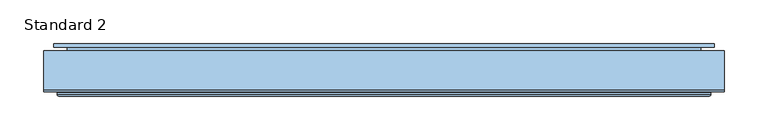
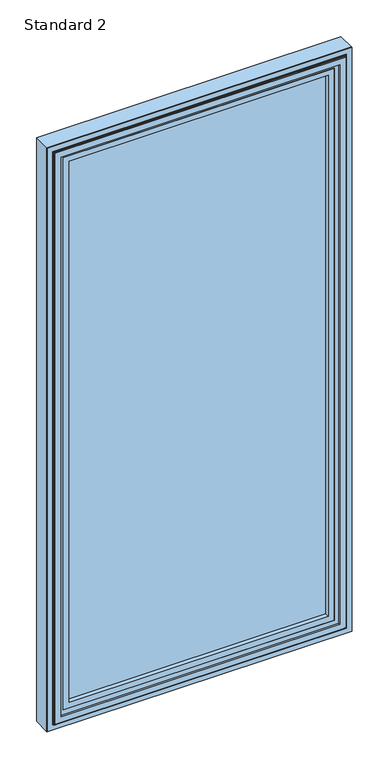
"""IFC4 building model written with IfcOpenShell, lengths in millimetres: window geometry, SMARTS_AlithermHeritage : Standard 2."""

from ifc_helpers import new_model, si_unit, frame, origin, place, context, project, spatial, polyline, ellipse_curve, outline, extrude, source, transform, mapped, element, save
from ifc_brep_helpers import plane_surface, cylinder_surface, revolved_surface, advanced_brep


def standard_2_b6ffea32(model_context):
    return source(origin(), model_context, "Body", "SolidModel", [
        extrude(outline(polyline([(2190.0, 390.0), (2190.0, -390.0), (610.0, -390.0), (610.0, 390.0), (2190.0, 390.0)]), holes=[polyline([(627.7000182, 372.2999818), (627.7000182, -372.2999818), (2172.2999818, -372.2999818), (2172.2999818, 372.2999818), (627.7000182, 372.2999818)])]), frame((0.0, 50.279857, 0.0), z_axis=(0.0, 1.0, 0.0), x_axis=(0.0, 0.0, 1.0)), (0.0, 0.0, 1.0), 44.9999962),
        advanced_brep(
        [(357.0, 43.2798432, 2157.0), (357.0, 47.2798432, 2157.0), (357.0, 47.2798432, 643.0), (357.0, 43.2798432, 643.0), (390.0, 50.279857, 2190.0), (390.0, 48.279857, 2190.0), (390.0, 48.279857, 610.0), (390.0, 50.279857, 610.0), (372.4999818, 43.2798432, 2172.4999818), (-372.4999818, 43.2798432, 2172.4999818), (-372.4999818, 43.2798432, 627.5000182), (372.4999818, 43.2798432, 627.5000182), (-357.0, 43.2798432, 643.0), (-357.0, 43.2798432, 2157.0), (-390.0, 50.279857, 2190.0), (-390.0, 48.279857, 2190.0), (-390.0, 50.279857, 610.0), (372.2999818, 50.279857, 2172.2999818), (-372.2999818, 50.279857, 2172.2999818), (-372.2999818, 50.279857, 627.7000182), (372.2999818, 50.279857, 627.7000182), (-357.0, 47.2798432, 2157.0), (-357.0, 47.2798432, 643.0), (-390.0, 48.279857, 610.0), (-372.2999818, 47.2798432, 2172.2999818), (372.2999818, 47.2798432, 2172.2999818), (372.2999818, 47.2798432, 627.7000182), (374.4999818, 46.779857, 625.5000182), (374.4999818, 45.2798432, 625.5000182), (-374.4999818, 45.2798432, 625.5000182), (-374.4999818, 46.779857, 625.5000182), (374.4999818, 46.779857, 2174.4999818), (374.4999818, 45.2798432, 2174.4999818), (-372.2999818, 47.2798432, 627.7000182), (-374.4999818, 45.2798432, 2174.4999818), (-374.4999818, 46.779857, 2174.4999818), (375.9999818, 48.279857, 2175.9999818), (375.9999818, 48.279857, 624.0000182), (-375.9999818, 48.279857, 624.0000182), (-375.9999818, 48.279857, 2175.9999818)],
        [
            (0, 1),
            (1, 2),
            (2, 3),
            (3, 0),
            (4, 5),
            (5, 6),
            (6, 7),
            (7, 4),
            (8, 9),
            (9, 10),
            (10, 11),
            (11, 8),
            (3, 12),
            (12, 13),
            (13, 0),
            (14, 15),
            (15, 5),
            (4, 14),
            (7, 16),
            (16, 14),
            (17, 18),
            (18, 19),
            (19, 20),
            (20, 17),
            (13, 21),
            (21, 1),
            (2, 22),
            (22, 12),
            (22, 21),
            (6, 23),
            (23, 16),
            (23, 15),
            (24, 18),
            (17, 25),
            (25, 24),
            (20, 26),
            (26, 25),
            (27, 28),
            (28, 29),
            (29, 30),
            (30, 27),
            (31, 32),
            (32, 28),
            (27, 31),
            (19, 33),
            (33, 26),
            (24, 33),
            (29, 34),
            (34, 35),
            (35, 30),
            (34, 32),
            (31, 35),
            (36, 31, ellipse_curve(frame((375.9999818, 46.779857, 2175.9999818), z_axis=(-0.7071067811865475, 0.0, 0.7071067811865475), x_axis=(-0.7071067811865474, 0.0, -0.7071067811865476)), 2.1213203, 1.5)),
            (27, 37, ellipse_curve(frame((375.9999818, 46.779857, 624.0000182), z_axis=(-0.7071067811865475, 0.0, -0.7071067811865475), x_axis=(0.7071067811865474, 0.0, -0.7071067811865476)), 2.1213203, 1.5)),
            (37, 36),
            (30, 38, ellipse_curve(frame((-375.9999818, 46.779857, 624.0000182), z_axis=(-0.7071067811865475, 0.0, 0.7071067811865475), x_axis=(-0.7071067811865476, 0.0, -0.7071067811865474)), 2.1213203, 1.5)),
            (38, 37),
            (35, 39, ellipse_curve(frame((-375.9999818, 46.779857, 2175.9999818), z_axis=(0.7071067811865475, 0.0, 0.7071067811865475), x_axis=(-0.7071067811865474, 0.0, 0.7071067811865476)), 2.1213203, 1.5)),
            (39, 38),
            (36, 39),
            (32, 8, ellipse_curve(frame((372.4999818, 45.2798432, 2172.4999818), z_axis=(0.7071067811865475, 0.0, -0.7071067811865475), x_axis=(0.7071067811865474, 0.0, 0.7071067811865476)), 2.8284271, 2.0)),
            (11, 28, ellipse_curve(frame((372.4999818, 45.2798432, 627.5000182), z_axis=(0.7071067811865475, 0.0, 0.7071067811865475), x_axis=(-0.7071067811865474, 0.0, 0.7071067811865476)), 2.8284271, 2.0)),
            (10, 29, ellipse_curve(frame((-372.4999818, 45.2798432, 627.5000182), z_axis=(0.7071067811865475, 0.0, -0.7071067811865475), x_axis=(0.7071067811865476, 0.0, 0.7071067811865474)), 2.8284271, 2.0)),
            (9, 34, ellipse_curve(frame((-372.4999818, 45.2798432, 2172.4999818), z_axis=(-0.7071067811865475, 0.0, -0.7071067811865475), x_axis=(0.7071067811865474, 0.0, -0.7071067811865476)), 2.8284271, 2.0)),
        ],
        [
            plane_surface(frame((357.0, 47.2798432, 2157.0), z_axis=(-1.0, 0.0, 0.0), x_axis=(0.0, 0.0, -1.0))),
            plane_surface(frame((390.0, 48.279857, 2190.0), z_axis=(1.0, 0.0, 0.0), x_axis=(0.0, 0.0, -1.0))),
            plane_surface(frame((-357.0, 43.2798432, 2157.0), z_axis=(0.0, -1.0, 0.0), x_axis=(1.0, 0.0, 0.0))),
            plane_surface(frame((-390.0, 48.279857, 2190.0), z_axis=(0.0, 0.0, 1.0), x_axis=(1.0, 0.0, 0.0))),
            plane_surface(frame((-390.0, 50.279857, 2190.0), z_axis=(0.0, 1.0, 0.0), x_axis=(1.0, 0.0, 0.0))),
            plane_surface(frame((-357.0, 47.2798432, 2157.0), z_axis=(0.0, 0.0, -1.0), x_axis=(1.0, 0.0, 0.0))),
            plane_surface(frame((357.0, 47.2798432, 643.0), z_axis=(0.0, 0.0, 1.0), x_axis=(-1.0, 0.0, 0.0))),
            plane_surface(frame((-357.0, 47.2798432, 643.0), z_axis=(1.0, 0.0, 0.0), x_axis=(0.0, 0.0, 1.0))),
            plane_surface(frame((390.0, 48.279857, 610.0), z_axis=(0.0, 0.0, -1.0), x_axis=(-1.0, 0.0, 0.0))),
            plane_surface(frame((-390.0, 48.279857, 610.0), z_axis=(-1.0, 0.0, 0.0), x_axis=(0.0, 0.0, 1.0))),
            plane_surface(frame((-372.2999818, 50.279857, 2172.2999818), z_axis=(0.0, 0.0, -1.0), x_axis=(1.0, 0.0, 0.0))),
            plane_surface(frame((372.2999818, 50.279857, 2172.2999818), z_axis=(-1.0, 0.0, 0.0), x_axis=(0.0, 0.0, -1.0))),
            plane_surface(frame((374.4999818, 45.2798432, 625.5000182), z_axis=(0.0, 0.0, -1.0), x_axis=(-1.0, 0.0, 0.0))),
            plane_surface(frame((374.4999818, 45.2798432, 2174.4999818), z_axis=(1.0, 0.0, 0.0), x_axis=(0.0, 0.0, -1.0))),
            plane_surface(frame((372.2999818, 50.279857, 627.7000182), z_axis=(0.0, 0.0, 1.0), x_axis=(-1.0, 0.0, 0.0))),
            plane_surface(frame((-372.2999818, 50.279857, 627.7000182), z_axis=(1.0, 0.0, 0.0), x_axis=(0.0, 0.0, 1.0))),
            plane_surface(frame((-374.4999818, 45.2798432, 625.5000182), z_axis=(-1.0, 0.0, 0.0), x_axis=(0.0, 0.0, 1.0))),
            plane_surface(frame((-372.2999818, 47.2798432, 2172.2999818), z_axis=(0.0, 1.0, 0.0), x_axis=(1.0, 0.0, 0.0))),
            plane_surface(frame((-374.4999818, 45.2798432, 2174.4999818), z_axis=(0.0, 0.0, 1.0), x_axis=(1.0, 0.0, 0.0))),
            revolved_surface(polyline([(374.4999818, 46.779857, 622.5000182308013), (374.4999818, 46.779857, 2177.4999817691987)]), (375.9999818, 46.779857, 2190.0), (0.0, 0.0, -1.0)),
            revolved_surface(polyline([(-377.4999817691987, 46.779857, 625.5000182), (377.49998176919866, 46.779857, 625.5000182)]), (390.0, 46.779857, 624.0000182), (-1.0, 0.0, 0.0)),
            revolved_surface(polyline([(-374.4999818, 46.779857, 2177.4999817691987), (-374.4999818, 46.779857, 622.5000182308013)]), (-375.9999818, 46.779857, 610.0), (0.0, 0.0, 1.0)),
            revolved_surface(polyline([(377.4999817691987, 46.779857, 2174.4999818), (-377.49998176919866, 46.779857, 2174.4999818)]), (-390.0, 46.779857, 2175.9999818), (1.0, 0.0, 0.0)),
            plane_surface(frame((-375.9999818, 48.279857, 2175.9999818), z_axis=(0.0, -1.0, 0.0), x_axis=(1.0, 0.0, 0.0))),
            cylinder_surface(frame((372.4999818, 45.2798432, 2190.0), z_axis=(0.0, 0.0, 1.0), x_axis=(-1.0, 0.0, 0.0)), 2.0),
            cylinder_surface(frame((390.0, 45.2798432, 627.5000182), z_axis=(1.0, 0.0, 0.0), x_axis=(0.0, 0.0, 1.0)), 2.0),
            cylinder_surface(frame((-372.4999818, 45.2798432, 610.0), z_axis=(0.0, 0.0, -1.0), x_axis=(1.0, 0.0, 0.0)), 2.0),
            cylinder_surface(frame((-390.0, 45.2798432, 2172.4999818), z_axis=(-1.0, 0.0, 0.0), x_axis=(0.0, 0.0, -1.0)), 2.0),
        ],
        [
            (0, [[1, 2, 3, 4]]),
            (1, [[5, 6, 7, 8]]),
            (2, [[9, 10, 11, 12], [13, 14, 15, -4]]),
            (3, [[16, 17, -5, 18]]),
            (4, [[19, 20, -18, -8], [21, 22, 23, 24]]),
            (5, [[25, 26, -1, -15]]),
            (6, [[-3, 27, 28, -13]]),
            (7, [[-28, 29, -25, -14]]),
            (8, [[-7, 30, 31, -19]]),
            (9, [[-31, 32, -16, -20]]),
            (10, [[33, -21, 34, 35]]),
            (11, [[-34, -24, 36, 37]]),
            (12, [[38, 39, 40, 41]]),
            (13, [[42, 43, -38, 44]]),
            (14, [[-36, -23, 45, 46]]),
            (15, [[-45, -22, -33, 47]]),
            (16, [[-40, 48, 49, 50]]),
            (17, [[-46, -47, -35, -37], [-26, -29, -27, -2]]),
            (18, [[-49, 51, -42, 52]]),
            (19, [[53, -44, 54, 55]]),
            (20, [[-54, -41, 56, 57]]),
            (21, [[-56, -50, 58, 59]]),
            (22, [[-58, -52, -53, 60]]),
            (23, [[-17, -32, -30, -6], [-57, -59, -60, -55]]),
            (24, [[61, -12, 62, -43]]),
            (25, [[-62, -11, 63, -39]]),
            (26, [[-63, -10, 64, -48]]),
            (27, [[-64, -9, -61, -51]]),
        ],
    ),
        extrude(outline(polyline([(-343.5, 89.2798432), (343.5, 89.2798432), (343.5, 85.2798432), (-343.5, 85.2798432), (-343.5, 89.2798432)])), frame((0.0, 0.0, 656.5), z_axis=(0.0, 0.0, 1.0), x_axis=(1.0, 0.0, 0.0)), (0.0, 0.0, 1.0), 1487.0),
        extrude(outline(polyline([(-343.5, 69.2798432), (343.5, 69.2798432), (343.5, 65.2798432), (-343.5, 65.2798432), (-343.5, 69.2798432)])), frame((0.0, 0.0, 656.5), z_axis=(0.0, 0.0, 1.0), x_axis=(1.0, 0.0, 0.0)), (0.0, 0.0, 1.0), 1487.0),
        extrude(outline(polyline([(2143.5, -343.5), (656.5, -343.5), (656.5, 343.5), (2143.5, 343.5), (2143.5, -343.5)]), holes=[polyline([(2133.5, 333.5), (666.5, 333.5), (666.5, -333.5), (2133.5, -333.5), (2133.5, 333.5)])]), frame((0.0, 69.2798432, 0.0), z_axis=(0.0, 1.0, 0.0), x_axis=(0.0, 0.0, 1.0)), (0.0, 0.0, 1.0), 16.0),
        extrude(outline(polyline([(2147.0052956, -347.0052956), (652.9947044, -347.0052956), (652.9947044, 347.0052956), (2147.0052956, 347.0052956), (2147.0052956, -347.0052956)]), holes=[polyline([(2132.0, 332.0), (668.0, 332.0), (668.0, -332.0), (2132.0, -332.0), (2132.0, 332.0)])]), frame((0.0, 51.2798432, 0.0), z_axis=(0.0, 1.0, 0.0), x_axis=(0.0, 0.0, 1.0)), (0.0, 0.0, 1.0), 11.3),
        extrude(outline(polyline([(637.3548042, -362.6451958), (637.3548042, 362.6451958), (2162.6451958, 362.6451958), (2162.6451958, -362.6451958), (637.3548042, -362.6451958)]), holes=[polyline([(2147.0, -347.0), (2147.0, 347.0), (653.0, 347.0), (653.0, -347.0), (2147.0, -347.0)])]), frame((0.0, 51.2798432, 0.0), z_axis=(0.0, 1.0, 0.0), x_axis=(0.0, 0.0, 1.0)), (0.0, 0.0, 1.0), 41.6),
        advanced_brep(
        [(-332.0, 98.0798432, 2132.0), (-332.0, 92.8798432, 2132.0), (-332.0, 92.8798432, 668.0), (-332.0, 98.0798432, 668.0), (332.0, 92.8798432, 668.0), (332.0, 98.0798432, 668.0), (332.0, 92.8798432, 2132.0), (332.0, 98.0798432, 2132.0), (-378.2, 99.2798432, 2178.2), (-378.2, 103.2798432, 2178.2), (-378.2, 103.2798432, 621.8), (-378.2, 99.2798432, 621.8), (378.2, 103.2798432, 621.8), (378.2, 99.2798432, 621.8), (378.2, 103.2798432, 2178.2), (378.2, 99.2798432, 2178.2), (-363.1467657, 99.2798432, 2163.1467657), (363.1467657, 99.2798432, 2163.1467657), (363.1467657, 99.2798432, 636.8532343), (-363.1467657, 99.2798432, 636.8532343), (-349.2, 103.2798432, 650.8), (349.2, 103.2798432, 650.8), (349.2, 103.2798432, 2149.2), (-349.2, 103.2798432, 2149.2), (-363.1467657, 92.8798432, 2163.1467657), (-363.1467657, 92.8798432, 636.8532343), (363.1467657, 92.8798432, 636.8532343), (363.1467657, 92.8798432, 2163.1467657), (-347.2, 101.2798432, 2147.2), (-347.2, 100.0798432, 2147.2), (-347.2, 100.0798432, 652.8), (-347.2, 101.2798432, 652.8), (-345.2, 98.0798432, 2145.2), (-345.2, 98.0798432, 654.8), (347.2, 100.0798432, 652.8), (347.2, 101.2798432, 652.8), (345.2, 98.0798432, 654.8), (347.2, 100.0798432, 2147.2), (347.2, 101.2798432, 2147.2), (345.2, 98.0798432, 2145.2)],
        [
            (0, 1),
            (1, 2),
            (2, 3),
            (3, 0),
            (2, 4),
            (4, 5),
            (5, 3),
            (4, 6),
            (6, 7),
            (7, 5),
            (6, 1),
            (0, 7),
            (8, 9),
            (9, 10),
            (10, 11),
            (11, 8),
            (10, 12),
            (12, 13),
            (13, 11),
            (12, 14),
            (14, 15),
            (15, 13),
            (15, 8),
            (16, 17),
            (17, 18),
            (18, 19),
            (19, 16),
            (14, 9),
            (20, 21),
            (21, 22),
            (22, 23),
            (23, 20),
            (24, 16),
            (19, 25),
            (25, 24),
            (18, 26),
            (26, 25),
            (17, 27),
            (27, 26),
            (27, 24),
            (28, 29),
            (29, 30),
            (30, 31),
            (31, 28),
            (29, 32, ellipse_curve(frame((-345.2, 100.0798432, 2145.2), z_axis=(0.7071067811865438, 0.0, 0.7071067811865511), x_axis=(0.707106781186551, 0.0, -0.7071067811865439)), 2.8284271, 2.0)),
            (32, 33),
            (33, 30, ellipse_curve(frame((-345.2, 100.0798432, 654.8), z_axis=(0.7071067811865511, 0.0, -0.7071067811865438), x_axis=(-0.7071067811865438, 0.0, -0.7071067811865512)), 2.8284271, 2.0)),
            (30, 34),
            (34, 35),
            (35, 31),
            (33, 36),
            (36, 34, ellipse_curve(frame((345.2, 100.0798432, 654.8), z_axis=(0.7071067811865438, 0.0, 0.7071067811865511), x_axis=(0.7071067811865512, 0.0, -0.7071067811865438)), 2.8284271, 2.0)),
            (34, 37),
            (37, 38),
            (38, 35),
            (36, 39),
            (39, 37, ellipse_curve(frame((345.2, 100.0798432, 2145.2), z_axis=(-0.7071067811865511, 0.0, 0.7071067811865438), x_axis=(0.7071067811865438, 0.0, 0.7071067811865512)), 2.8284271, 2.0)),
            (32, 39),
            (37, 29),
            (28, 38),
            (23, 28, ellipse_curve(frame((-349.2, 101.2798432, 2149.2), z_axis=(-0.7071067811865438, 0.0, -0.7071067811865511), x_axis=(-0.707106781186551, 0.0, 0.7071067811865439)), 2.8284271, 2.0)),
            (31, 20, ellipse_curve(frame((-349.2, 101.2798432, 650.8), z_axis=(-0.7071067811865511, 0.0, 0.7071067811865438), x_axis=(0.7071067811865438, 0.0, 0.7071067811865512)), 2.8284271, 2.0)),
            (35, 21, ellipse_curve(frame((349.2, 101.2798432, 650.8), z_axis=(-0.7071067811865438, 0.0, -0.7071067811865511), x_axis=(-0.7071067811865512, 0.0, 0.7071067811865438)), 2.8284271, 2.0)),
            (38, 22, ellipse_curve(frame((349.2, 101.2798432, 2149.2), z_axis=(0.7071067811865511, 0.0, -0.7071067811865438), x_axis=(-0.7071067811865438, 0.0, -0.7071067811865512)), 2.8284271, 2.0)),
        ],
        [
            plane_surface(frame((-332.0, 92.8798432, 2132.0), z_axis=(1.0, 0.0, 0.0), x_axis=(0.0, 0.0, -1.0))),
            plane_surface(frame((-332.0, 92.8798432, 668.0), z_axis=(0.0, 0.0, 1.0), x_axis=(1.0, 0.0, 0.0))),
            plane_surface(frame((332.0, 92.8798432, 668.0), z_axis=(-1.0, 0.0, 0.0), x_axis=(0.0, 0.0, 1.0))),
            plane_surface(frame((332.0, 92.8798432, 2132.0), z_axis=(0.0, 0.0, -1.0), x_axis=(-1.0, 0.0, 0.0))),
            plane_surface(frame((-378.2, 103.2798432, 2178.2), z_axis=(-1.0, 0.0, 0.0), x_axis=(0.0, 0.0, -1.0))),
            plane_surface(frame((-378.2, 103.2798432, 621.8), z_axis=(0.0, 0.0, -1.0), x_axis=(1.0, 0.0, 0.0))),
            plane_surface(frame((378.2, 103.2798432, 621.8), z_axis=(1.0, 0.0, 0.0), x_axis=(0.0, 0.0, 1.0))),
            plane_surface(frame((378.2, 99.2798432, 2178.2), z_axis=(0.0, -1.0, 0.0), x_axis=(-1.0, 0.0, 0.0))),
            plane_surface(frame((378.2, 103.2798432, 2178.2), z_axis=(0.0, 0.0, 1.0), x_axis=(-1.0, 0.0, 0.0))),
            plane_surface(frame((349.2, 103.2798432, 2149.2), z_axis=(0.0, 1.0, 0.0), x_axis=(-1.0, 0.0, 0.0))),
            plane_surface(frame((-363.1467657, 99.2798432, 2163.1467657), z_axis=(-1.0, 0.0, 0.0), x_axis=(0.0, 0.0, -1.0))),
            plane_surface(frame((-363.1467657, 99.2798432, 636.8532343), z_axis=(0.0, 0.0, -1.0), x_axis=(1.0, 0.0, 0.0))),
            plane_surface(frame((363.1467657, 99.2798432, 636.8532343), z_axis=(1.0, 0.0, 0.0), x_axis=(0.0, 0.0, 1.0))),
            plane_surface(frame((363.1467657, 92.8798432, 2163.1467657), z_axis=(0.0, -1.0, 0.0), x_axis=(-1.0, 0.0, 0.0))),
            plane_surface(frame((363.1467657, 99.2798432, 2163.1467657), z_axis=(0.0, 0.0, 1.0), x_axis=(-1.0, 0.0, 0.0))),
            plane_surface(frame((-347.2, 100.0798432, 2147.2), z_axis=(1.0, 0.0, 0.0), x_axis=(0.0, 0.0, -1.0))),
            revolved_surface(polyline([(-347.2, 100.0798432, 652.8), (-347.2, 100.0798432, 2147.2)]), (-345.2, 100.0798432, 2157.0), (0.0, 0.0, -1.0)),
            plane_surface(frame((-347.2, 100.0798432, 652.8), z_axis=(0.0, 0.0, 1.0), x_axis=(1.0, 0.0, 0.0))),
            revolved_surface(polyline([(347.20000000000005, 100.0798432, 652.8), (-347.2, 100.0798432, 652.8)]), (-357.0, 100.0798432, 654.8), (1.0, 0.0, 0.0)),
            plane_surface(frame((347.2, 100.0798432, 652.8), z_axis=(-1.0, 0.0, 0.0), x_axis=(0.0, 0.0, 1.0))),
            revolved_surface(polyline([(347.2, 100.0798432, 2147.2), (347.2, 100.0798432, 652.8)]), (345.2, 100.0798432, 643.0), (0.0, 0.0, 1.0)),
            plane_surface(frame((332.0, 98.0798432, 2132.0), z_axis=(0.0, 1.0, 0.0), x_axis=(-1.0, 0.0, 0.0))),
            plane_surface(frame((347.2, 100.0798432, 2147.2), z_axis=(0.0, 0.0, -1.0), x_axis=(-1.0, 0.0, 0.0))),
            revolved_surface(polyline([(-347.20000000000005, 100.0798432, 2147.2), (347.2, 100.0798432, 2147.2)]), (357.0, 100.0798432, 2145.2), (-1.0, 0.0, 0.0)),
            cylinder_surface(frame((-349.2, 101.2798432, 2157.0), z_axis=(0.0, 0.0, 1.0), x_axis=(-1.0, 0.0, 0.0)), 2.0),
            cylinder_surface(frame((-357.0, 101.2798432, 650.8), z_axis=(-1.0, 0.0, 0.0), x_axis=(0.0, 0.0, -1.0)), 2.0),
            cylinder_surface(frame((349.2, 101.2798432, 643.0), z_axis=(0.0, 0.0, -1.0), x_axis=(1.0, 0.0, 0.0)), 2.0),
            cylinder_surface(frame((357.0, 101.2798432, 2149.2), z_axis=(1.0, 0.0, 0.0), x_axis=(0.0, 0.0, 1.0)), 2.0),
        ],
        [
            (0, [[1, 2, 3, 4]]),
            (1, [[-3, 5, 6, 7]]),
            (2, [[-6, 8, 9, 10]]),
            (3, [[-9, 11, -1, 12]]),
            (4, [[13, 14, 15, 16]]),
            (5, [[-15, 17, 18, 19]]),
            (6, [[-18, 20, 21, 22]]),
            (7, [[-19, -22, 23, -16], [24, 25, 26, 27]]),
            (8, [[-21, 28, -13, -23]]),
            (9, [[-28, -20, -17, -14], [29, 30, 31, 32]]),
            (10, [[33, -27, 34, 35]]),
            (11, [[-34, -26, 36, 37]]),
            (12, [[-36, -25, 38, 39]]),
            (13, [[-37, -39, 40, -35], [-11, -8, -5, -2]]),
            (14, [[-38, -24, -33, -40]]),
            (15, [[41, 42, 43, 44]]),
            (16, [[45, 46, 47, -42]]),
            (17, [[-43, 48, 49, 50]]),
            (18, [[-47, 51, 52, -48]]),
            (19, [[-49, 53, 54, 55]]),
            (20, [[-52, 56, 57, -53]]),
            (21, [[58, -56, -51, -46], [-7, -10, -12, -4]]),
            (22, [[-54, 59, -41, 60]]),
            (23, [[-57, -58, -45, -59]]),
            (24, [[61, -44, 62, -32]]),
            (25, [[-62, -50, 63, -29]]),
            (26, [[-63, -55, 64, -30]]),
            (27, [[-64, -60, -61, -31]]),
        ],
    ),
    ])


if __name__ == "__main__":
    model = new_model("IFC4")
    model_context = context("Model", 3, world=origin())
    ifc_project = project(units=[si_unit("LENGTHUNIT", "METRE", prefix="MILLI")], contexts=[model_context])
    site = spatial("IfcSite", under=ifc_project)
    building = spatial("IfcBuilding", under=site)
    placement = place(None, origin())
    standard_2_shape = standard_2_b6ffea32(model_context)
    element("IfcWindow", 1, ObjectType="SMARTS_AlithermHeritage : Standard 2", at=placement, inside=building, context=model_context, shape_type="MappedRepresentation", body=[
        mapped(standard_2_shape, transform((0.0, 0.0, 0.0), x_axis=(1.0, 0.0, 0.0), y_axis=(0.0, 1.0, 0.0), z_axis=(0.0, 0.0, 1.0))),
    ])
    save(model, "model.ifc")
